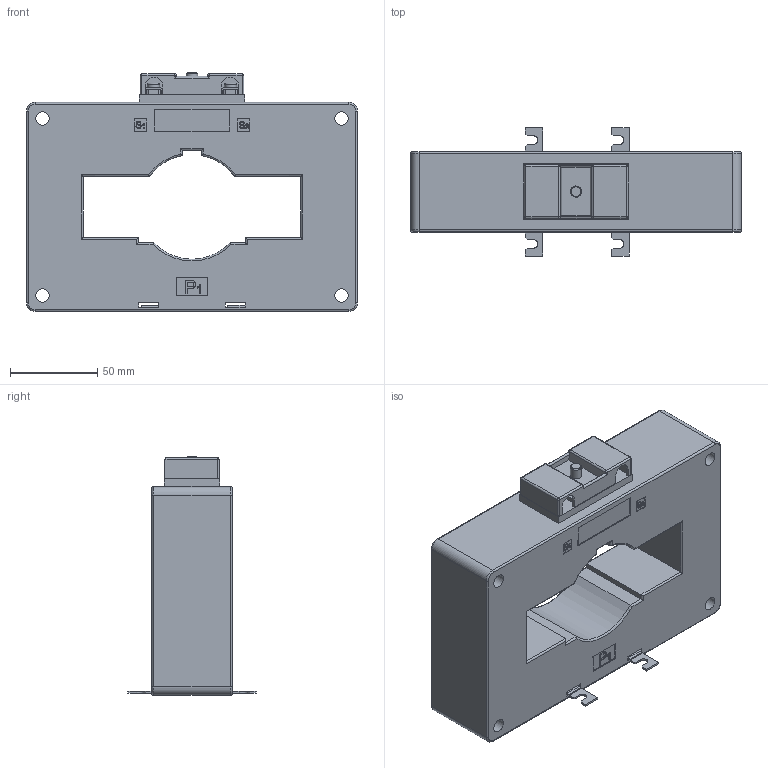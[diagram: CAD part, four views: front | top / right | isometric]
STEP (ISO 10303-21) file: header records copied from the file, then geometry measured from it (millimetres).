
FILE_DESCRIPTION(/* description */ (''),/* implementation_level */ '2;1');
FILE_NAME(/* name */ 'T:\EngMecanica\DESENHOS INVENTOR\Catalogo 2019\arquivo SAT\KR 1235.stp',/* time_stamp */ '2022-02-25T11:38:30-03:00',/* author */ ('jose.luis'),/* organization */ (''),/* preprocessor_version */ 'ST-DEVELOPER v18.1',/* originating_system */ 'Autodesk Inventor 2021',/* authorisation */ '');
FILE_SCHEMA (('AUTOMOTIVE_DESIGN { 1 0 10303 214 3 1 1 }'));
Length unit declared in the file: millimetre
Products named in the file (25): KR 1235; KR 1235_1; KR 1235_2; KR 1235_3; KR 1235_4; KR 1235_5; KR 1235_6; KR 1235_7; KR 1235_8; KR 1235_9; KR 1235_10; KR 1235_11; KR 1235_12; KR 1235_13; KR 1235_14; KR 1235_15; KR 1235_16; KR 1235_17; KR 1235_18; KR 1235_19; KR 1235_20; KR 1235_21; KR 1235_22; KR 1235_23; parafuso recartilhado
Assembly tree (24 placements, depth 2):
  KR 1235
    KR 1235_1
    KR 1235_2
    KR 1235_3
    KR 1235_4
    KR 1235_5
    KR 1235_6
    KR 1235_7
    KR 1235_8
    KR 1235_9
    KR 1235_10
    KR 1235_11
    KR 1235_12
    KR 1235_13
    KR 1235_14
    KR 1235_15
    KR 1235_16
    KR 1235_17
    KR 1235_18
    KR 1235_19
    KR 1235_20
    KR 1235_21
    KR 1235_22
    KR 1235_23
    parafuso recartilhado
Bounding box: 190 x 73.5 x 137.16 mm (x, y, z)
Volume: 808820.5 mm3; surface area: 103805.3 mm2
Topology: 24 solids, 24 shells, 748 faces, 1946 edges, 1262 vertices
Faces by surface type: cylinder 361, plane 340, torus 20, cone 12, bspline 8, sphere 7
Full cylindrical faces by diameter (mm): 3.2 x18, 3.9 x36, 4 x2, 4.2 x2, 4.5 x1, 6 x2, 6.5 x1, 7 x2, 7.5 x1, 7.8 x4
Entity records: 34940 total; most frequent: CARTESIAN_POINT 15426, DIRECTION 3982, ORIENTED_EDGE 3886, EDGE_CURVE 1943, AXIS2_PLACEMENT_3D 1445, VERTEX_POINT 1262, LINE 1092, VECTOR 1092
